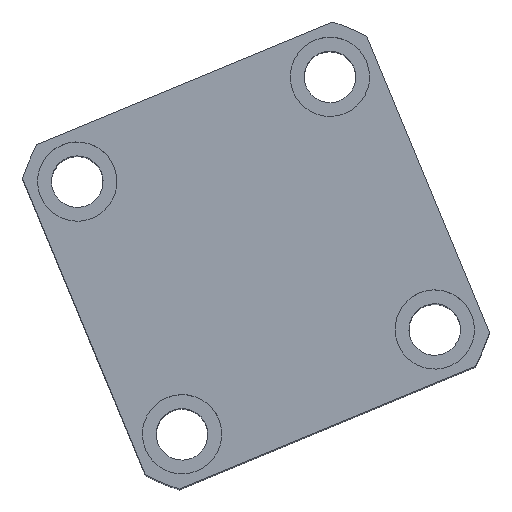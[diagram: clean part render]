
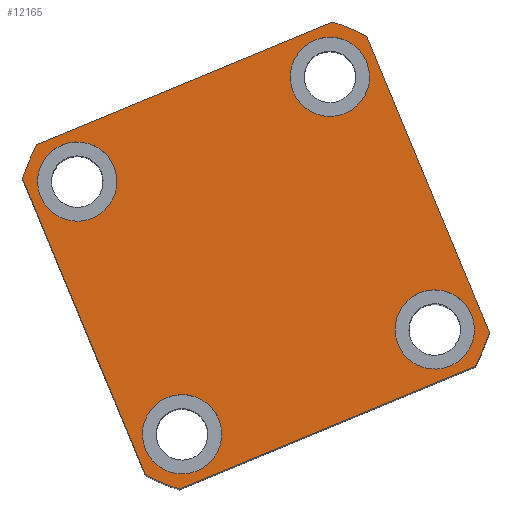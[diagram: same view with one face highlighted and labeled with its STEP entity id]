
A CAD part, top view. The second image highlights one B-rep face of the part: STEP entity #12165.
In plain terms, the highlighted planar face has unit normal (0, 0, 1) as drawn and (0, 0, -1) by its records, which use the part's own axes.
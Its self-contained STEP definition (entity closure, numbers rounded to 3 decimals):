
#185 = AXIS2_PLACEMENT_3D ( 'NONE', #7845, #19889, #9565 ) ;
#256 = EDGE_LOOP ( 'NONE', ( #17385, #4066 ) ) ;
#304 = CARTESIAN_POINT ( 'NONE',  ( -24.5, 34.5, 0. ) ) ;
#381 = EDGE_LOOP ( 'NONE', ( #20314, #16876 ) ) ;
#384 = ORIENTED_EDGE ( 'NONE', *, *, #10700, .F. ) ;
#517 = FACE_OUTER_BOUND ( 'NONE', #15366, .T. ) ;
#747 = CIRCLE ( 'NONE', #1113, 10. ) ;
#828 = DIRECTION ( 'NONE',  ( 0., 0., 1. ) ) ;
#912 = ORIENTED_EDGE ( 'NONE', *, *, #13684, .F. ) ;
#935 = EDGE_CURVE ( 'NONE', #12958, #12394, #17276, .T. ) ;
#1098 = VERTEX_POINT ( 'NONE', #3647 ) ;
#1113 = AXIS2_PLACEMENT_3D ( 'NONE', #16670, #6340, #18412 ) ;
#1483 = EDGE_CURVE ( 'NONE', #14845, #3199, #14032, .T. ) ;
#1585 = CIRCLE ( 'NONE', #8724, 62. ) ;
#1609 = FACE_BOUND ( 'NONE', #12934, .T. ) ;
#1801 = ORIENTED_EDGE ( 'NONE', *, *, #19841, .F. ) ;
#2147 = EDGE_CURVE ( 'NONE', #3199, #14845, #17814, .T. ) ;
#2304 = VERTEX_POINT ( 'NONE', #8923 ) ;
#2341 = CARTESIAN_POINT ( 'NONE',  ( -34.5, -34.5, 0. ) ) ;
#2488 = EDGE_CURVE ( 'NONE', #1098, #20832, #4568, .T. ) ;
#2647 = EDGE_CURVE ( 'NONE', #2304, #3215, #2966, .T. ) ;
#2651 = VECTOR ( 'NONE', #18314, 1000. ) ;
#2916 = DIRECTION ( 'NONE',  ( -1., 0., 0. ) ) ;
#2966 = LINE ( 'NONE', #16701, #12693 ) ;
#3065 = CARTESIAN_POINT ( 'NONE',  ( 34.5, 34.5, 0. ) ) ;
#3199 = VERTEX_POINT ( 'NONE', #304 ) ;
#3215 = VERTEX_POINT ( 'NONE', #3875 ) ;
#3524 = CARTESIAN_POINT ( 'NONE',  ( -44.5, -34.5, 0. ) ) ;
#3647 = CARTESIAN_POINT ( 'NONE',  ( 44.5, -34.5, 0. ) ) ;
#3875 = CARTESIAN_POINT ( 'NONE',  ( -40.435, 47., 0. ) ) ;
#4066 = ORIENTED_EDGE ( 'NONE', *, *, #2147, .F. ) ;
#4074 = DIRECTION ( 'NONE',  ( -1., 0., 0. ) ) ;
#4143 = DIRECTION ( 'NONE',  ( 0., 0., -1. ) ) ;
#4244 = AXIS2_PLACEMENT_3D ( 'NONE', #3065, #15104, #4783 ) ;
#4469 = CARTESIAN_POINT ( 'NONE',  ( 24.5, -34.5, 0. ) ) ;
#4568 = CIRCLE ( 'NONE', #185, 10. ) ;
#4594 = CARTESIAN_POINT ( 'NONE',  ( 47., -40.435, 0. ) ) ;
#4783 = DIRECTION ( 'NONE',  ( -1., 0., 0. ) ) ;
#4875 = CARTESIAN_POINT ( 'NONE',  ( 44.5, 34.5, 0. ) ) ;
#5009 = VERTEX_POINT ( 'NONE', #17486 ) ;
#5127 = VECTOR ( 'NONE', #15187, 1000. ) ;
#5568 = ORIENTED_EDGE ( 'NONE', *, *, #15708, .F. ) ;
#5659 = AXIS2_PLACEMENT_3D ( 'NONE', #2341, #14386, #4074 ) ;
#5665 = FACE_BOUND ( 'NONE', #22384, .T. ) ;
#5687 = CIRCLE ( 'NONE', #12493, 62. ) ;
#5753 = VERTEX_POINT ( 'NONE', #3524 ) ;
#5807 = CARTESIAN_POINT ( 'NONE',  ( -40.435, -47., 0. ) ) ;
#5841 = DIRECTION ( 'NONE',  ( 0., 0., -1. ) ) ;
#5981 = CARTESIAN_POINT ( 'NONE',  ( -34.5, 34.5, 0. ) ) ;
#5988 = AXIS2_PLACEMENT_3D ( 'NONE', #8771, #20821, #10486 ) ;
#6340 = DIRECTION ( 'NONE',  ( 0., 0., -1. ) ) ;
#6465 = CIRCLE ( 'NONE', #4244, 10. ) ;
#6505 = DIRECTION ( 'NONE',  ( 0., 0., 1. ) ) ;
#6983 = EDGE_CURVE ( 'NONE', #11186, #17711, #747, .T. ) ;
#7246 = LINE ( 'NONE', #14756, #2651 ) ;
#7734 = DIRECTION ( 'NONE',  ( -1., 0., 0. ) ) ;
#7821 = CARTESIAN_POINT ( 'NONE',  ( 0., 0., 0. ) ) ;
#7845 = CARTESIAN_POINT ( 'NONE',  ( 34.5, -34.5, 0. ) ) ;
#7973 = AXIS2_PLACEMENT_3D ( 'NONE', #14462, #4143, #16217 ) ;
#8023 = CIRCLE ( 'NONE', #7973, 10. ) ;
#8197 = CARTESIAN_POINT ( 'NONE',  ( 0., 0., 0. ) ) ;
#8222 = EDGE_CURVE ( 'NONE', #5753, #22015, #12617, .T. ) ;
#8273 = EDGE_CURVE ( 'NONE', #22015, #5753, #8023, .T. ) ;
#8633 = VERTEX_POINT ( 'NONE', #5807 ) ;
#8724 = AXIS2_PLACEMENT_3D ( 'NONE', #11150, #828, #12895 ) ;
#8736 = ORIENTED_EDGE ( 'NONE', *, *, #935, .F. ) ;
#8771 = CARTESIAN_POINT ( 'NONE',  ( -34.5, 34.5, 0. ) ) ;
#8897 = VERTEX_POINT ( 'NONE', #15149 ) ;
#8923 = CARTESIAN_POINT ( 'NONE',  ( 40.435, 47., 0. ) ) ;
#9006 = DIRECTION ( 'NONE',  ( 0., 0., 1. ) ) ;
#9223 = ORIENTED_EDGE ( 'NONE', *, *, #2647, .F. ) ;
#9301 = AXIS2_PLACEMENT_3D ( 'NONE', #8197, #20246, #9916 ) ;
#9546 = DIRECTION ( 'NONE',  ( 1., 0., 0. ) ) ;
#9565 = DIRECTION ( 'NONE',  ( -1., 0., 0. ) ) ;
#9701 = FACE_BOUND ( 'NONE', #381, .T. ) ;
#9751 = ORIENTED_EDGE ( 'NONE', *, *, #21651, .F. ) ;
#9916 = DIRECTION ( 'NONE',  ( 1., 0., 0. ) ) ;
#9962 = PLANE ( 'NONE',  #20400 ) ;
#9963 = CIRCLE ( 'NONE', #11116, 62. ) ;
#10486 = DIRECTION ( 'NONE',  ( -1., 0., 0. ) ) ;
#10488 = CARTESIAN_POINT ( 'NONE',  ( 47., 40.435, 0. ) ) ;
#10618 = ORIENTED_EDGE ( 'NONE', *, *, #8273, .F. ) ;
#10700 = EDGE_CURVE ( 'NONE', #5009, #12958, #18893, .T. ) ;
#10745 = EDGE_CURVE ( 'NONE', #8633, #5009, #10804, .T. ) ;
#10804 = LINE ( 'NONE', #13386, #5127 ) ;
#11116 = AXIS2_PLACEMENT_3D ( 'NONE', #19334, #9006, #21064 ) ;
#11150 = CARTESIAN_POINT ( 'NONE',  ( 0., 0., 0. ) ) ;
#11166 = EDGE_CURVE ( 'NONE', #17711, #11186, #6465, .T. ) ;
#11186 = VERTEX_POINT ( 'NONE', #22134 ) ;
#11506 = CARTESIAN_POINT ( 'NONE',  ( -24.5, -34.5, 0. ) ) ;
#11697 = DIRECTION ( 'NONE',  ( 1., 0., 0. ) ) ;
#12014 = CARTESIAN_POINT ( 'NONE',  ( 47., 47., 0. ) ) ;
#12165 = ADVANCED_FACE ( 'NONE', ( #1609, #5665, #9701, #18873, #517 ), #9962, .F. ) ;
#12394 = VERTEX_POINT ( 'NONE', #10488 ) ;
#12493 = AXIS2_PLACEMENT_3D ( 'NONE', #7821, #19872, #9546 ) ;
#12617 = CIRCLE ( 'NONE', #5659, 10. ) ;
#12693 = VECTOR ( 'NONE', #2916, 1000. ) ;
#12895 = DIRECTION ( 'NONE',  ( 1., 0., 0. ) ) ;
#12934 = EDGE_LOOP ( 'NONE', ( #16115, #10618 ) ) ;
#12958 = VERTEX_POINT ( 'NONE', #4594 ) ;
#13386 = CARTESIAN_POINT ( 'NONE',  ( -47., -47., 0. ) ) ;
#13509 = DIRECTION ( 'NONE',  ( 0., 1., 0. ) ) ;
#13562 = CIRCLE ( 'NONE', #15512, 10. ) ;
#13684 = EDGE_CURVE ( 'NONE', #3215, #8897, #1585, .T. ) ;
#13819 = VERTEX_POINT ( 'NONE', #18099 ) ;
#14032 = CIRCLE ( 'NONE', #20704, 10. ) ;
#14386 = DIRECTION ( 'NONE',  ( 0., 0., -1. ) ) ;
#14462 = CARTESIAN_POINT ( 'NONE',  ( -34.5, -34.5, 0. ) ) ;
#14645 = ORIENTED_EDGE ( 'NONE', *, *, #2488, .F. ) ;
#14756 = CARTESIAN_POINT ( 'NONE',  ( -47., 47., 0. ) ) ;
#14845 = VERTEX_POINT ( 'NONE', #16338 ) ;
#15005 = EDGE_CURVE ( 'NONE', #12394, #2304, #5687, .T. ) ;
#15104 = DIRECTION ( 'NONE',  ( 0., 0., -1. ) ) ;
#15149 = CARTESIAN_POINT ( 'NONE',  ( -47., 40.435, 0. ) ) ;
#15187 = DIRECTION ( 'NONE',  ( 1., 0., 0. ) ) ;
#15366 = EDGE_LOOP ( 'NONE', ( #19187, #8736, #384, #18953, #5568, #1801, #912, #9223 ) ) ;
#15512 = AXIS2_PLACEMENT_3D ( 'NONE', #16172, #5841, #17896 ) ;
#15708 = EDGE_CURVE ( 'NONE', #13819, #8633, #9963, .T. ) ;
#16115 = ORIENTED_EDGE ( 'NONE', *, *, #8222, .F. ) ;
#16172 = CARTESIAN_POINT ( 'NONE',  ( 34.5, -34.5, 0. ) ) ;
#16217 = DIRECTION ( 'NONE',  ( -1., 0., 0. ) ) ;
#16338 = CARTESIAN_POINT ( 'NONE',  ( -44.5, 34.5, 0. ) ) ;
#16670 = CARTESIAN_POINT ( 'NONE',  ( 34.5, 34.5, 0. ) ) ;
#16701 = CARTESIAN_POINT ( 'NONE',  ( -47., 47., 0. ) ) ;
#16730 = VECTOR ( 'NONE', #13509, 1000. ) ;
#16876 = ORIENTED_EDGE ( 'NONE', *, *, #11166, .F. ) ;
#17276 = LINE ( 'NONE', #12014, #16730 ) ;
#17385 = ORIENTED_EDGE ( 'NONE', *, *, #1483, .F. ) ;
#17486 = CARTESIAN_POINT ( 'NONE',  ( 40.435, -47., 0. ) ) ;
#17711 = VERTEX_POINT ( 'NONE', #4875 ) ;
#17814 = CIRCLE ( 'NONE', #5988, 10. ) ;
#17896 = DIRECTION ( 'NONE',  ( -1., 0., 0. ) ) ;
#18046 = DIRECTION ( 'NONE',  ( 0., 0., -1. ) ) ;
#18099 = CARTESIAN_POINT ( 'NONE',  ( -47., -40.435, 0. ) ) ;
#18314 = DIRECTION ( 'NONE',  ( 0., -1., 0. ) ) ;
#18412 = DIRECTION ( 'NONE',  ( -1., 0., 0. ) ) ;
#18570 = CARTESIAN_POINT ( 'NONE',  ( 0., 0., 0. ) ) ;
#18873 = FACE_BOUND ( 'NONE', #256, .T. ) ;
#18893 = CIRCLE ( 'NONE', #9301, 62. ) ;
#18953 = ORIENTED_EDGE ( 'NONE', *, *, #10745, .F. ) ;
#19187 = ORIENTED_EDGE ( 'NONE', *, *, #15005, .F. ) ;
#19334 = CARTESIAN_POINT ( 'NONE',  ( 0., 0., 0. ) ) ;
#19841 = EDGE_CURVE ( 'NONE', #8897, #13819, #7246, .T. ) ;
#19872 = DIRECTION ( 'NONE',  ( 0., 0., 1. ) ) ;
#19889 = DIRECTION ( 'NONE',  ( 0., 0., -1. ) ) ;
#20246 = DIRECTION ( 'NONE',  ( 0., 0., 1. ) ) ;
#20314 = ORIENTED_EDGE ( 'NONE', *, *, #6983, .F. ) ;
#20400 = AXIS2_PLACEMENT_3D ( 'NONE', #18570, #6505, #11697 ) ;
#20704 = AXIS2_PLACEMENT_3D ( 'NONE', #5981, #18046, #7734 ) ;
#20821 = DIRECTION ( 'NONE',  ( 0., 0., -1. ) ) ;
#20832 = VERTEX_POINT ( 'NONE', #4469 ) ;
#21064 = DIRECTION ( 'NONE',  ( 1., 0., 0. ) ) ;
#21651 = EDGE_CURVE ( 'NONE', #20832, #1098, #13562, .T. ) ;
#22015 = VERTEX_POINT ( 'NONE', #11506 ) ;
#22134 = CARTESIAN_POINT ( 'NONE',  ( 24.5, 34.5, 0. ) ) ;
#22384 = EDGE_LOOP ( 'NONE', ( #9751, #14645 ) ) ;
